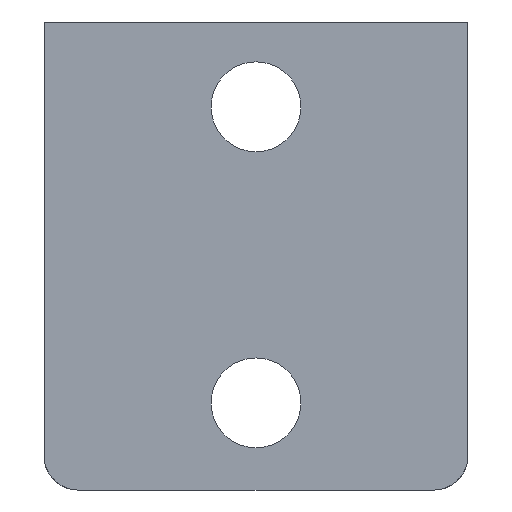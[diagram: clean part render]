
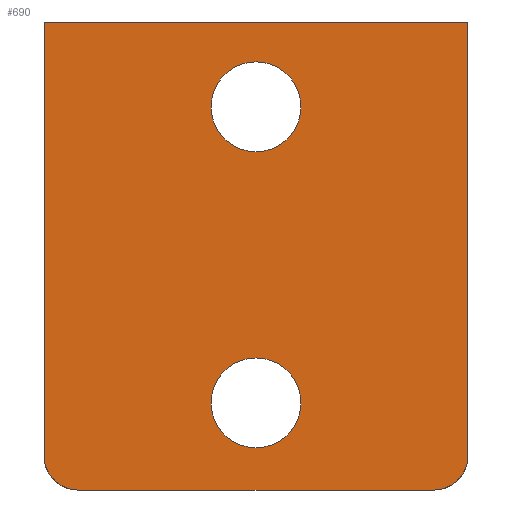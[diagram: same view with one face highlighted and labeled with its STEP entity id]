
A CAD part, front view. The second image highlights one B-rep face of the part: STEP entity #690.
In plain terms, the highlighted planar face has unit normal (0, -1, 0).
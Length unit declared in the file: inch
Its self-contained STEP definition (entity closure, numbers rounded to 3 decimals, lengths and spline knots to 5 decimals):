
#25 = EDGE_CURVE ( 'NONE', #660, #34, #562, .T. ) ;
#31 = DIRECTION ( 'NONE',  ( 1., 0., 0. ) ) ;
#34 = VERTEX_POINT ( 'NONE', #668 ) ;
#46 = DIRECTION ( 'NONE',  ( 0., 0., -1. ) ) ;
#47 = VERTEX_POINT ( 'NONE', #735 ) ;
#70 = CIRCLE ( 'NONE', #719, 0.2 ) ;
#74 = CARTESIAN_POINT ( 'NONE',  ( 0., 0., -2.76 ) ) ;
#78 = DIRECTION ( 'NONE',  ( -1., 0., 0. ) ) ;
#82 = DIRECTION ( 'NONE',  ( 0., -1., 0. ) ) ;
#83 = VERTEX_POINT ( 'NONE', #747 ) ;
#84 = DIRECTION ( 'NONE',  ( 0., 1., 0. ) ) ;
#85 = DIRECTION ( 'NONE',  ( -1., 0., 0. ) ) ;
#89 = CIRCLE ( 'NONE', #661, 0.265 ) ;
#105 = DIRECTION ( 'NONE',  ( 0., -1., 0. ) ) ;
#106 = VERTEX_POINT ( 'NONE', #742 ) ;
#114 = VECTOR ( 'NONE', #569, 39.37008 ) ;
#120 = CARTESIAN_POINT ( 'NONE',  ( 2.5, 0., 0. ) ) ;
#130 = EDGE_LOOP ( 'NONE', ( #379, #225 ) ) ;
#149 = VERTEX_POINT ( 'NONE', #243 ) ;
#157 = EDGE_CURVE ( 'NONE', #47, #83, #694, .T. ) ;
#164 = EDGE_CURVE ( 'NONE', #149, #760, #722, .T. ) ;
#168 = EDGE_CURVE ( 'NONE', #334, #106, #257, .T. ) ;
#193 = EDGE_CURVE ( 'NONE', #34, #631, #752, .T. ) ;
#196 = CARTESIAN_POINT ( 'NONE',  ( 0., 0., 0. ) ) ;
#206 = EDGE_LOOP ( 'NONE', ( #615, #518 ) ) ;
#216 = ORIENTED_EDGE ( 'NONE', *, *, #325, .F. ) ;
#225 = ORIENTED_EDGE ( 'NONE', *, *, #168, .T. ) ;
#227 = AXIS2_PLACEMENT_3D ( 'NONE', #196, #82, #444 ) ;
#236 = DIRECTION ( 'NONE',  ( 0., 0., 1. ) ) ;
#243 = CARTESIAN_POINT ( 'NONE',  ( 2.3, 0., -2.76 ) ) ;
#247 = VECTOR ( 'NONE', #337, 39.37008 ) ;
#252 = CARTESIAN_POINT ( 'NONE',  ( 1.25, 0., -0.5 ) ) ;
#254 = ORIENTED_EDGE ( 'NONE', *, *, #25, .F. ) ;
#257 = CIRCLE ( 'NONE', #491, 0.265 ) ;
#319 = ORIENTED_EDGE ( 'NONE', *, *, #389, .T. ) ;
#325 = EDGE_CURVE ( 'NONE', #631, #414, #417, .T. ) ;
#334 = VERTEX_POINT ( 'NONE', #516 ) ;
#337 = DIRECTION ( 'NONE',  ( 0., 0., -1. ) ) ;
#357 = CARTESIAN_POINT ( 'NONE',  ( 0., 0., 0. ) ) ;
#359 = FACE_BOUND ( 'NONE', #130, .T. ) ;
#361 = EDGE_CURVE ( 'NONE', #106, #334, #89, .T. ) ;
#372 = DIRECTION ( 'NONE',  ( 0., 1., 0. ) ) ;
#379 = ORIENTED_EDGE ( 'NONE', *, *, #361, .T. ) ;
#389 = EDGE_CURVE ( 'NONE', #660, #760, #769, .T. ) ;
#414 = VERTEX_POINT ( 'NONE', #655 ) ;
#417 = LINE ( 'NONE', #649, #247 ) ;
#442 = VECTOR ( 'NONE', #31, 39.37008 ) ;
#444 = DIRECTION ( 'NONE',  ( 0., 0., -1. ) ) ;
#451 = DIRECTION ( 'NONE',  ( 0., 1., 0. ) ) ;
#456 = AXIS2_PLACEMENT_3D ( 'NONE', #572, #84, #78 ) ;
#463 = EDGE_CURVE ( 'NONE', #149, #414, #70, .T. ) ;
#472 = CARTESIAN_POINT ( 'NONE',  ( 2.3, 0., -2.56 ) ) ;
#484 = ORIENTED_EDGE ( 'NONE', *, *, #193, .F. ) ;
#491 = AXIS2_PLACEMENT_3D ( 'NONE', #504, #451, #85 ) ;
#504 = CARTESIAN_POINT ( 'NONE',  ( 1.25, 0., -2.246 ) ) ;
#508 = CARTESIAN_POINT ( 'NONE',  ( 0., 0., 0. ) ) ;
#511 = PLANE ( 'NONE',  #227 ) ;
#515 = CARTESIAN_POINT ( 'NONE',  ( 0., 0., -2.56 ) ) ;
#516 = CARTESIAN_POINT ( 'NONE',  ( 1.515, 0., -2.246 ) ) ;
#518 = ORIENTED_EDGE ( 'NONE', *, *, #157, .T. ) ;
#532 = DIRECTION ( 'NONE',  ( 0., 1., 0. ) ) ;
#534 = CARTESIAN_POINT ( 'NONE',  ( 1.25, 0., -2.246 ) ) ;
#543 = DIRECTION ( 'NONE',  ( 0., -1., 0. ) ) ;
#562 = LINE ( 'NONE', #357, #770 ) ;
#569 = DIRECTION ( 'NONE',  ( -1., 0., 0. ) ) ;
#572 = CARTESIAN_POINT ( 'NONE',  ( 1.25, 0., -0.5 ) ) ;
#579 = FACE_OUTER_BOUND ( 'NONE', #621, .T. ) ;
#585 = ORIENTED_EDGE ( 'NONE', *, *, #463, .T. ) ;
#593 = EDGE_CURVE ( 'NONE', #83, #47, #658, .T. ) ;
#615 = ORIENTED_EDGE ( 'NONE', *, *, #593, .T. ) ;
#621 = EDGE_LOOP ( 'NONE', ( #685, #585, #216, #484, #254, #319 ) ) ;
#622 = DIRECTION ( 'NONE',  ( -1., 0., 0. ) ) ;
#631 = VERTEX_POINT ( 'NONE', #120 ) ;
#632 = AXIS2_PLACEMENT_3D ( 'NONE', #671, #105, #716 ) ;
#636 = CARTESIAN_POINT ( 'NONE',  ( 0.2, 0., -2.76 ) ) ;
#649 = CARTESIAN_POINT ( 'NONE',  ( 2.5, 0., 0. ) ) ;
#655 = CARTESIAN_POINT ( 'NONE',  ( 2.5, 0., -2.56 ) ) ;
#658 = CIRCLE ( 'NONE', #772, 0.265 ) ;
#660 = VERTEX_POINT ( 'NONE', #515 ) ;
#661 = AXIS2_PLACEMENT_3D ( 'NONE', #534, #532, #736 ) ;
#666 = FACE_BOUND ( 'NONE', #206, .T. ) ;
#668 = CARTESIAN_POINT ( 'NONE',  ( 0., 0., 0. ) ) ;
#671 = CARTESIAN_POINT ( 'NONE',  ( 0.2, 0., -2.56 ) ) ;
#685 = ORIENTED_EDGE ( 'NONE', *, *, #164, .F. ) ;
#690 = ADVANCED_FACE ( 'NONE', ( #359, #666, #579 ), #511, .T. ) ;
#694 = CIRCLE ( 'NONE', #456, 0.265 ) ;
#716 = DIRECTION ( 'NONE',  ( 0., 0., -1. ) ) ;
#719 = AXIS2_PLACEMENT_3D ( 'NONE', #472, #543, #46 ) ;
#722 = LINE ( 'NONE', #74, #114 ) ;
#735 = CARTESIAN_POINT ( 'NONE',  ( 1.515, 0., -0.5 ) ) ;
#736 = DIRECTION ( 'NONE',  ( -1., 0., 0. ) ) ;
#742 = CARTESIAN_POINT ( 'NONE',  ( 0.985, 0., -2.246 ) ) ;
#747 = CARTESIAN_POINT ( 'NONE',  ( 0.985, 0., -0.5 ) ) ;
#752 = LINE ( 'NONE', #508, #442 ) ;
#760 = VERTEX_POINT ( 'NONE', #636 ) ;
#769 = CIRCLE ( 'NONE', #632, 0.2 ) ;
#770 = VECTOR ( 'NONE', #236, 39.37008 ) ;
#772 = AXIS2_PLACEMENT_3D ( 'NONE', #252, #372, #622 ) ;
